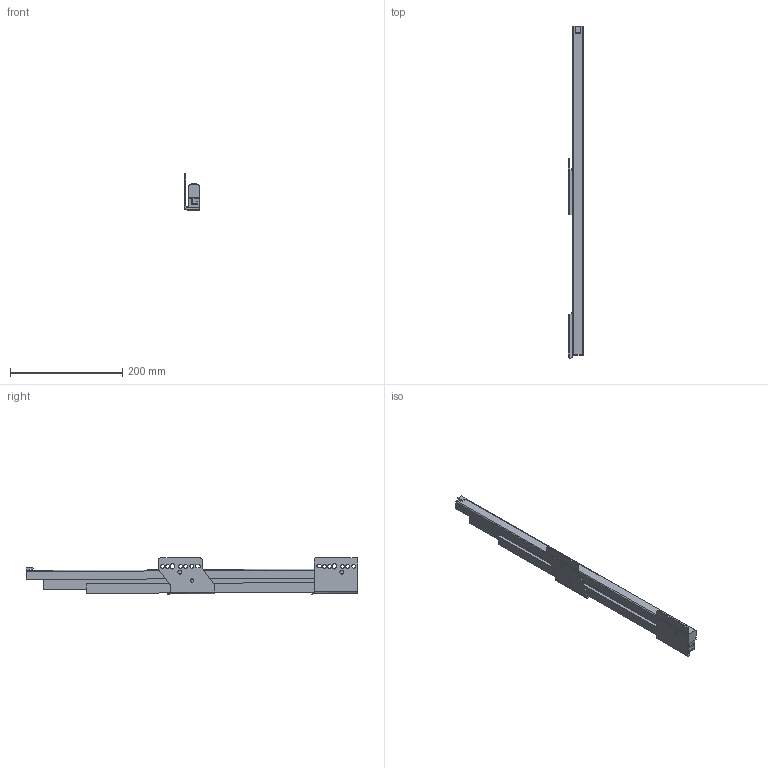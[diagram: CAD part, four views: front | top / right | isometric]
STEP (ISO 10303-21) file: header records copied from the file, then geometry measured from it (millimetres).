
FILE_DESCRIPTION (( 'STEP AP214' ), '1' );
FILE_NAME ('_IMOS_NOVA-Pro_KS_P907_LI_NL600_EB29.step', '2010-07-06T08:28:51', ( 'grass' ), ( '' ), 'SwSTEP 2.0', 'SolidWorks 2009', '' );
FILE_SCHEMA (( 'AUTOMOTIVE_DESIGN' ));
Length unit declared in the file: millimetre
Products named in the file (1): _IMOS_NOVA-Pro_KS_P907_LI_NL600_EB29
Bounding box: 26.75 x 590.34 x 64.46 mm (x, y, z)
Volume: 439551.1 mm3; surface area: 178256.9 mm2
Topology: 6 solids, 6 shells, 144 faces, 392 edges, 260 vertices
Faces by surface type: plane 89, cylinder 55
Entity records: 4691 total; most frequent: CARTESIAN_POINT 848, ORIENTED_EDGE 784, DIRECTION 765, EDGE_CURVE 392, VECTOR 275, LINE 275, VERTEX_POINT 260, AXIS2_PLACEMENT_3D 245
